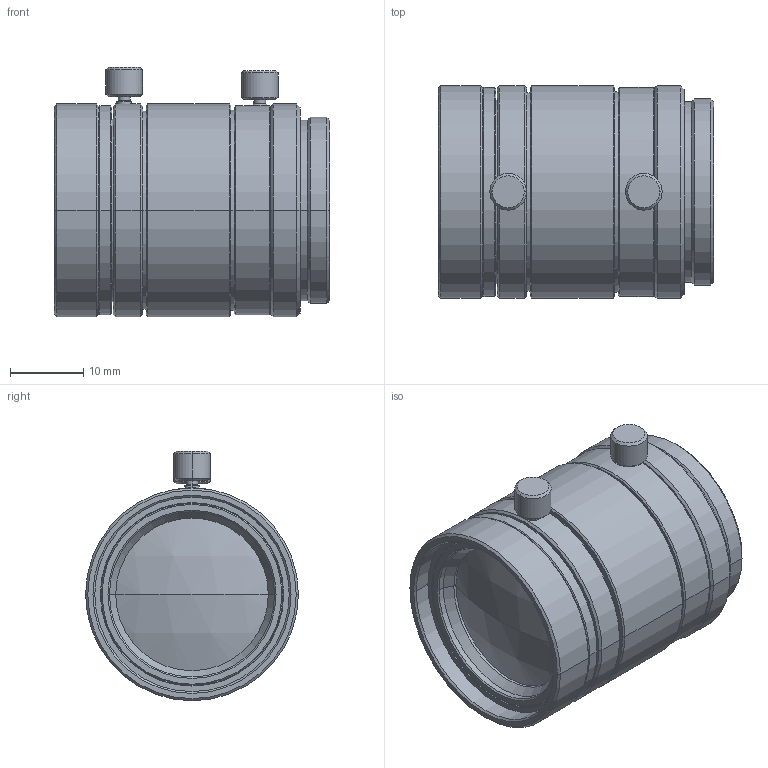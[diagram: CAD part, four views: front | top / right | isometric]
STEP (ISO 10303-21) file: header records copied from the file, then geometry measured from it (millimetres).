
FILE_DESCRIPTION (( 'STEP AP203' ), '1' );
FILE_NAME ('VS-3518VM.STEP', '2016-03-30T00:01:12', ( '' ), ( '' ), 'SwSTEP 2.0', 'SolidWorks 2016', '' );
FILE_SCHEMA (( 'CONFIG_CONTROL_DESIGN' ));
Length unit declared in the file: millimetre
Products named in the file (1): VS-3518VM
Bounding box: 37.48 x 29 x 34 mm (x, y, z)
Volume: 20469.5 mm3; surface area: 6437.8 mm2
Topology: 1 solids, 1 shells, 137 faces, 272 edges, 158 vertices
Faces by surface type: cone 66, cylinder 46, plane 21, sphere 4
Entity records: 3655 total; most frequent: DIRECTION 700, CARTESIAN_POINT 632, ORIENTED_EDGE 544, AXIS2_PLACEMENT_3D 294, EDGE_CURVE 272, EDGE_LOOP 158, VERTEX_POINT 158, CIRCLE 156
